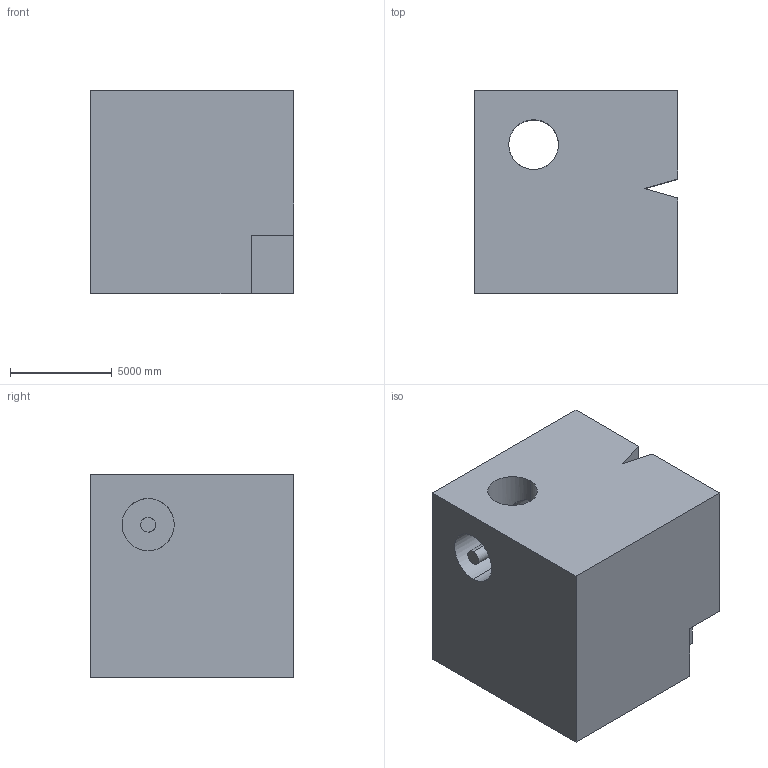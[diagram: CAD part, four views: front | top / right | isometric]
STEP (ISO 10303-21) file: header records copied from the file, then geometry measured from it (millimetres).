
FILE_DESCRIPTION (( 'STEP AP203' ), '1' );
FILE_NAME ('545.STEP', '2022-07-29T11:45:04', ( 'user' ), ( '' ), 'SwSTEP 2.0', 'SolidWorks 2021', '' );
FILE_SCHEMA (( 'CONFIG_CONTROL_DESIGN' ));
Length unit declared in the file: centimetre
Products named in the file (1): 545
Bounding box: 10000 x 10000 x 10000 mm (x, y, z)
Volume: 868939346810.1 mm3; surface area: 805269598.1 mm2
Topology: 2 solids, 2 shells, 37 faces, 96 edges, 64 vertices
Faces by surface type: plane 22, cylinder 15
Entity records: 2545 total; most frequent: CARTESIAN_POINT 1565, ORIENTED_EDGE 192, DIRECTION 170, EDGE_CURVE 96, VECTOR 64, LINE 64, VERTEX_POINT 64, AXIS2_PLACEMENT_3D 53
